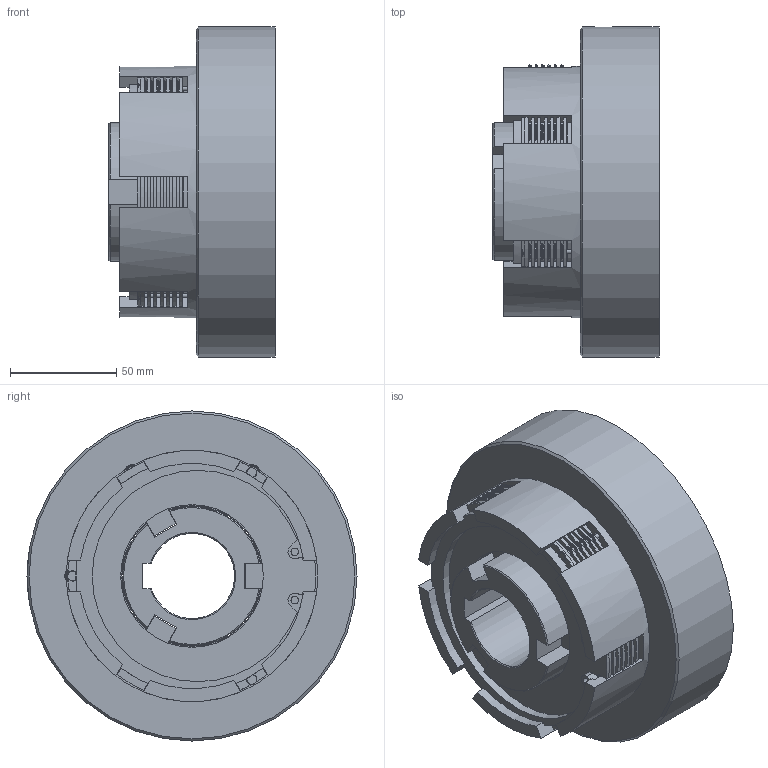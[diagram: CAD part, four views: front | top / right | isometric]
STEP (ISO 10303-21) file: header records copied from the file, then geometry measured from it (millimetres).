
FILE_DESCRIPTION(/* description */ (''),/* implementation_level */ '2;1');
FILE_NAME(/* name */ 'X:\INVENTOR\DISEGNI\03_Friz_Oleod_Pneum_Cil_Stat\03_40 FPL-N\03_40_004_01 FPL_N04\B\03_40_004_01 FPL-N04B@STEP.stp',/* time_stamp */ '2019-08-01T10:08:48+02:00',/* author */ ('stefano'),/* organization */ (''),/* preprocessor_version */ 'ST-DEVELOPER v17',/* originating_system */ 'Autodesk Inventor 2018',/* authorisation */ '');
FILE_SCHEMA (('AUTOMOTIVE_DESIGN { 1 0 10303 214 3 1 1 }'));
Products named in the file (1): 03_40_004_01 FPL-N04B_Substitute_1
Bounding box: 78 x 155 x 155 mm (x, y, z)
Volume: 761423.9 mm3; surface area: 194505.3 mm2
Topology: 2 solids, 2 shells, 896 faces, 2462 edges, 1644 vertices
Faces by surface type: plane 385, cylinder 248, bspline 226, cone 34, torus 3
Full cylindrical faces by diameter (mm): 2 x3, 2.75 x45, 3.5 x5, 4.917 x8, 8.566 x1, 10 x16, 67 x1, 70 x8, 80 x1, 97 x2, 100 x6, 105.8 x1, 118 x1, 135 x2, 155 x1
Entity records: 58490 total; most frequent: CARTESIAN_POINT 34953, ORIENTED_EDGE 4900, DIRECTION 4589, EDGE_CURVE 2450, AXIS2_PLACEMENT_3D 1813, VERTEX_POINT 1644, CIRCLE 1139, EDGE_LOOP 1078
